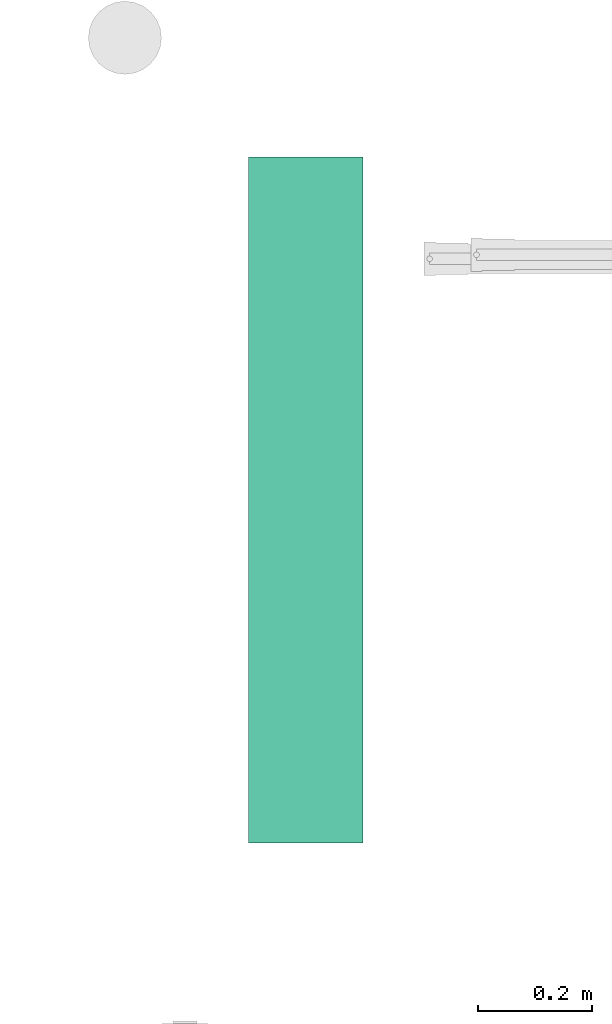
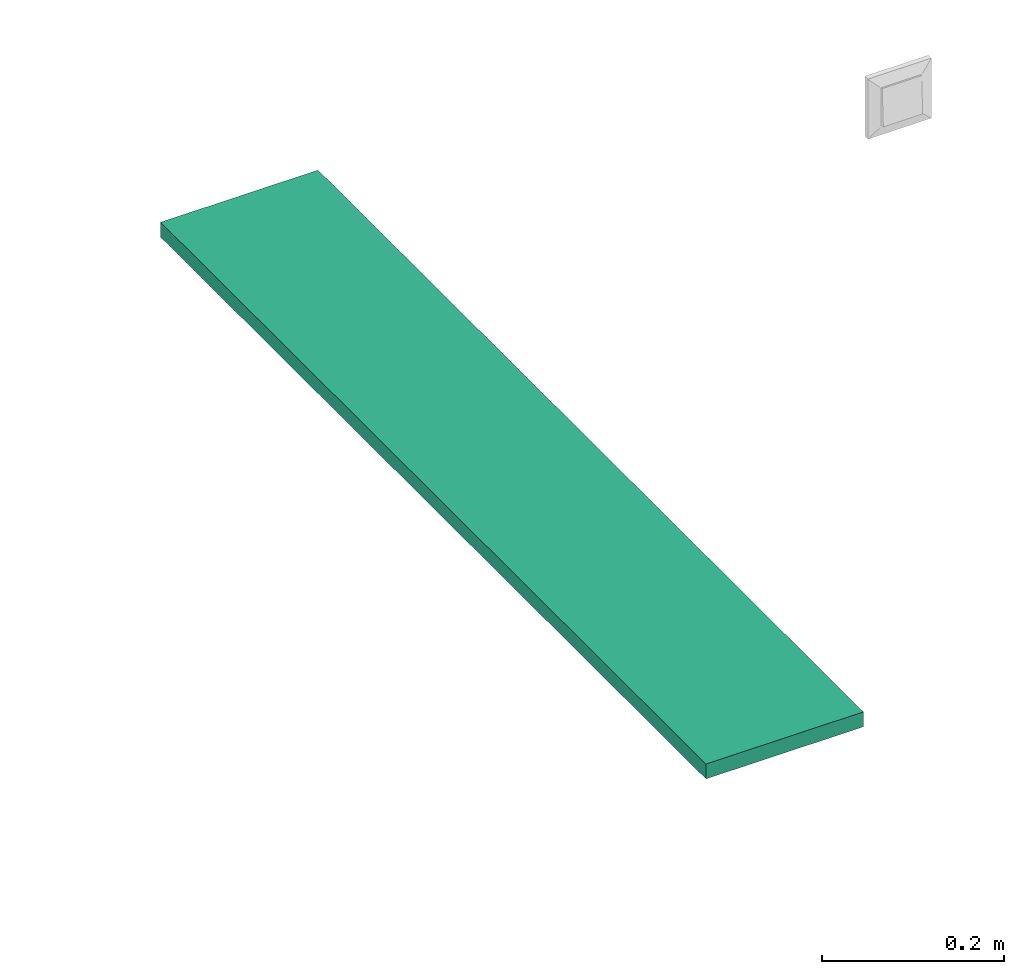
# One storey, part 4 of 153: 1 flow terminal.
"""IFC2X3 building model written with IfcOpenShell, lengths in metres."""

from ifc_helpers import new_model, entity, si_unit, converted_unit, derived_unit, direction, frame, origin, origin_2d_with_axis, place, context, subcontext, project, spatial, rectangle, extrude, source, transform, mapped, type_object, type_shapes, element, save


model = new_model("IFC2X3")

# Units and contexts
model_context = context("Model", 3, precision=1e-05, world=origin(), true_north=direction((6.12303176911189e-17, 1.0)))
body_context = subcontext(model_context, "Body", "Model", "MODEL_VIEW")
ifc_project = project(units=[si_unit("LENGTHUNIT", "METRE"), si_unit("AREAUNIT", "SQUARE_METRE"), si_unit("VOLUMEUNIT", "CUBIC_METRE"), converted_unit("PLANEANGLEUNIT", "DEGREE", entity("IfcRatioMeasure", 0.0174532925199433), si_unit("PLANEANGLEUNIT", "RADIAN"), dimensions=[0, 0, 0, 0, 0, 0, 0]), si_unit("MASSUNIT", "GRAM", prefix="KILO"), derived_unit("MASSDENSITYUNIT", [(si_unit("MASSUNIT", "GRAM", prefix="KILO"), 1), (si_unit("LENGTHUNIT", "METRE"), -3)]), si_unit("TIMEUNIT", "SECOND"), si_unit("FREQUENCYUNIT", "HERTZ"), si_unit("THERMODYNAMICTEMPERATUREUNIT", "DEGREE_CELSIUS"), derived_unit("THERMALTRANSMITTANCEUNIT", [(si_unit("MASSUNIT", "GRAM", prefix="KILO"), 1), (si_unit("THERMODYNAMICTEMPERATUREUNIT", "KELVIN"), -1), (si_unit("TIMEUNIT", "SECOND"), -3)]), derived_unit("VOLUMETRICFLOWRATEUNIT", [(si_unit("LENGTHUNIT", "METRE"), 3), (si_unit("TIMEUNIT", "SECOND"), -1)]), si_unit("ELECTRICCURRENTUNIT", "AMPERE"), si_unit("ELECTRICVOLTAGEUNIT", "VOLT"), si_unit("POWERUNIT", "WATT"), si_unit("FORCEUNIT", "NEWTON"), si_unit("ILLUMINANCEUNIT", "LUX"), si_unit("LUMINOUSFLUXUNIT", "LUMEN"), si_unit("LUMINOUSINTENSITYUNIT", "CANDELA"), derived_unit("USERDEFINED", [(si_unit("MASSUNIT", "GRAM", prefix="KILO"), -1), (si_unit("LENGTHUNIT", "METRE"), -2), (si_unit("TIMEUNIT", "SECOND"), 3), (si_unit("LUMINOUSFLUXUNIT", "LUMEN"), 1)]), derived_unit("LINEARVELOCITYUNIT", [(si_unit("LENGTHUNIT", "METRE"), 1), (si_unit("TIMEUNIT", "SECOND"), -1)]), si_unit("PRESSUREUNIT", "PASCAL"), derived_unit("USERDEFINED", [(si_unit("LENGTHUNIT", "METRE"), -2), (si_unit("MASSUNIT", "GRAM", prefix="KILO"), 1), (si_unit("TIMEUNIT", "SECOND"), -2)])], contexts=[model_context])

# Site, building, storey
site_placement = place(None, origin())
site = spatial("IfcSite", under=ifc_project, at=site_placement, Name="Default", CompositionType="ELEMENT")
building_placement = place(site_placement, origin())
building = spatial("IfcBuilding", under=site, at=building_placement, CompositionType="ELEMENT")
storey_placement = place(building_placement, frame((0.0, 0.0, -4.62)))
storey = spatial("IfcBuildingStorey", under=building, at=storey_placement, Name="S02", CompositionType="ELEMENT", Elevation=-4.62)

# Flow terminal
light_fixture_type = type_object("IfcLightFixtureType", Name="B_Réglete étanche", PredefinedType="NOTDEFINED")
shared_shape = source(origin(), body_context, "Body", "SweptSolid", [
    extrude(rectangle(XDim=0.199999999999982, YDim=1.2, at=origin_2d_with_axis()), frame((0.0, 0.0, 0.0), z_axis=(0.0, 0.0, 1.0), x_axis=(0.0, 1.0, 0.0)), (0.0, 0.0, 1.0), 0.02),
])
type_shapes(light_fixture_type, [shared_shape])
flow_terminal_placement = place(storey_placement, frame((34.54089883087, -189.637069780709, 4.175), z_axis=(0.0, 0.0, -1.0), x_axis=(0.0, -1.0, 0.0)))
element("IfcFlowTerminal", 1, at=flow_terminal_placement, inside=storey, type_object=light_fixture_type, Name="II_PREF_Type B Réglette étanche:B_Réglete étanche", ObjectType="II_PREF_Type B Réglette étanche:B_Réglete étanche", context=body_context, shape_type="MappedRepresentation", body=[
    mapped(shared_shape, transform((0.0, 0.0, 0.0), scale=1.0)),
])

save(model, "model.ifc")
